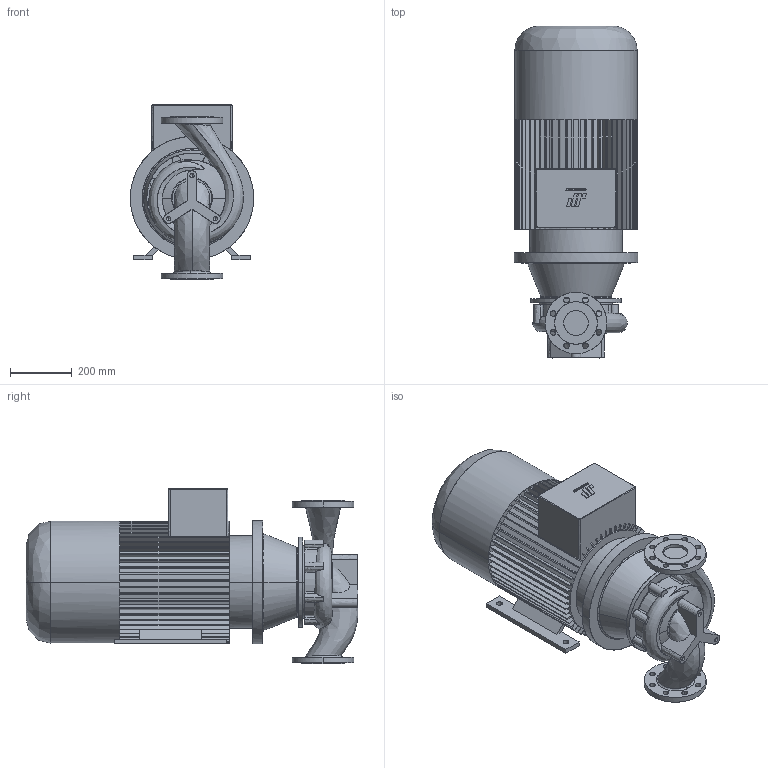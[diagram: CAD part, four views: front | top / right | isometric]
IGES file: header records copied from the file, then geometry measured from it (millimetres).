
Start section: CombiLine
Global section: file name: CLB_80-200_IEC200L_ND10.igs; native system:  By UGS Corp.; preprocessor: XPlus GENERIC/IGES 3.0; author: Stageplaats; organization: Johnson Pump Water B.V.; date: 20070717.101619; units: millimetre
Bounding box: 400 x 1076 x 570 mm (x, y, z)
Surface area: 2690799.1 mm2 (no closed solid volume)
Topology: 0 solids, 0 shells, 605 faces, 3674 edges, 3668 vertices
Faces by surface type: bspline 605
